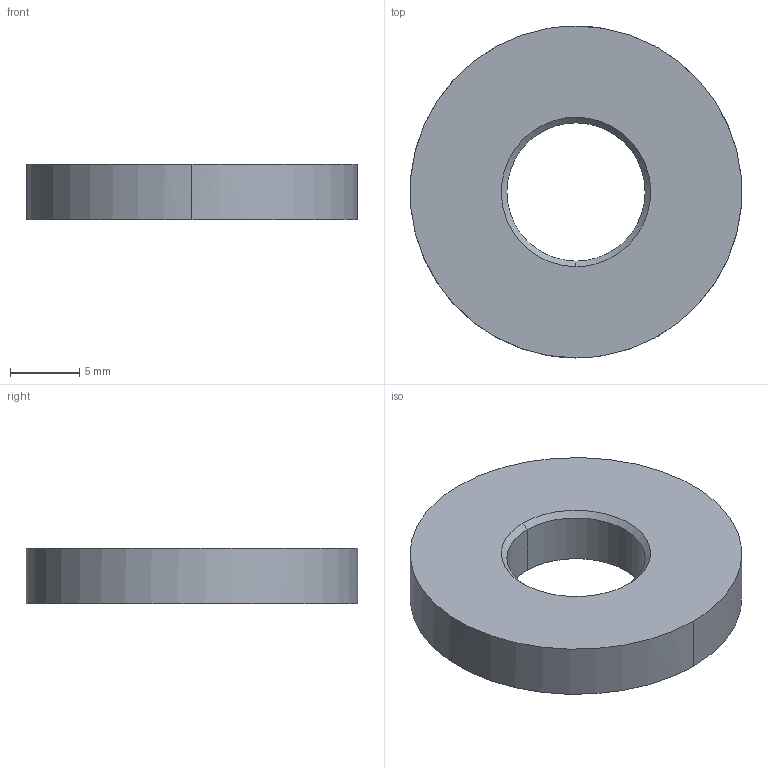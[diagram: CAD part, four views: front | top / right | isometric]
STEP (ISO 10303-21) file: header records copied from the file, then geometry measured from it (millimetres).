
FILE_DESCRIPTION (( 'STEP AP214' ), '1' );
FILE_NAME ('Soemer-SM71-M10 U-Scheibe.STEP', '2023-09-26T13:21:39', ( '' ), ( '' ), 'SwSTEP 2.0', 'SolidWorks 2019', '' );
FILE_SCHEMA (( 'AUTOMOTIVE_DESIGN' ));
Length unit declared in the file: millimetre
Products named in the file (2): Soemer-SM71-M10 U-Scheibe
Bounding box: 23.92 x 24 x 4 mm (x, y, z)
Volume: 1492.8 mm3; surface area: 1167.8 mm2
Topology: 1 solids, 1 shells, 8 faces, 16 edges, 10 vertices
Faces by surface type: bspline 6, plane 2
Entity records: 401 total; most frequent: CARTESIAN_POINT 218, ORIENTED_EDGE 32, EDGE_CURVE 16, DIRECTION 14, EDGE_LOOP 10, B_SPLINE_CURVE_WITH_KNOTS 10, VERTEX_POINT 10, ADVANCED_FACE 8
